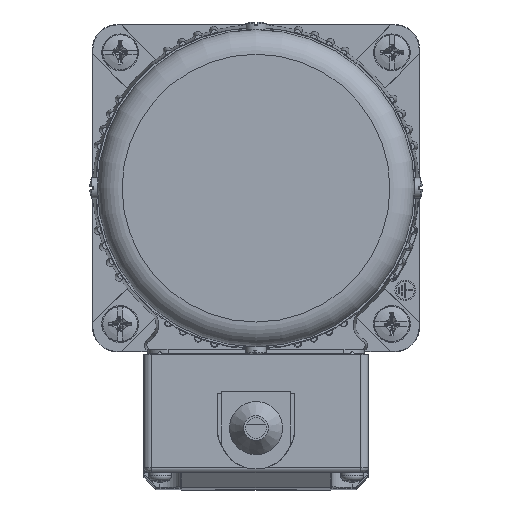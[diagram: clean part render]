
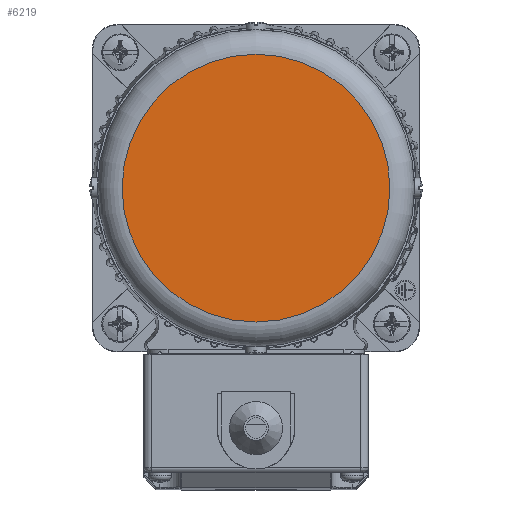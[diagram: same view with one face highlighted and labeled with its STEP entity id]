
A CAD part, left-side view. The second image highlights one B-rep face of the part: STEP entity #6219.
In plain terms, the highlighted planar face has unit normal (-1, 0, 0).
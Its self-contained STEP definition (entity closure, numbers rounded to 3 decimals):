
#6219=ADVANCED_FACE('',(#8240),#7365,.F.);
#7365=PLANE('',#26329);
#8240=FACE_OUTER_BOUND('',#9741,.T.);
#9741=EDGE_LOOP('',(#13352));
#13352=ORIENTED_EDGE('',*,*,#22111,.F.);
#19233=VERTEX_POINT('',#43531);
#22111=EDGE_CURVE('',#19233,#19233,#25015,.T.);
#25015=CIRCLE('',#26328,32.75);
#26328=AXIS2_PLACEMENT_3D('',#43530,#29423,#29424);
#26329=AXIS2_PLACEMENT_3D('',#43532,#29425,#29426);
#29423=DIRECTION('',(1.,0.,0.));
#29424=DIRECTION('',(0.,0.,-1.));
#29425=DIRECTION('',(1.,0.,0.));
#29426=DIRECTION('',(0.,0.,-1.));
#43530=CARTESIAN_POINT('',(-127.5,40.,40.));
#43531=CARTESIAN_POINT('',(-127.5,40.,7.25));
#43532=CARTESIAN_POINT('',(-127.5,40.,40.));
